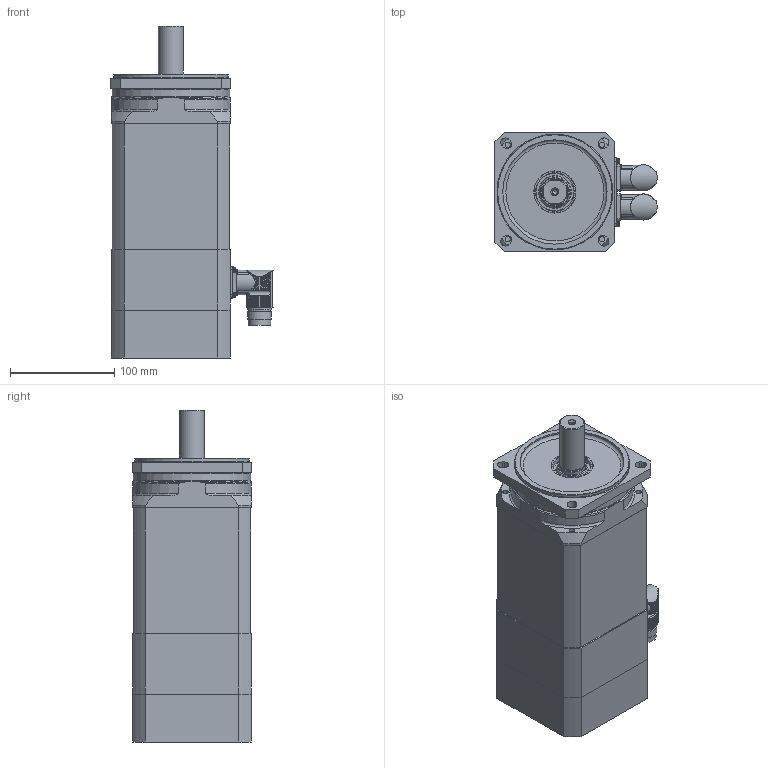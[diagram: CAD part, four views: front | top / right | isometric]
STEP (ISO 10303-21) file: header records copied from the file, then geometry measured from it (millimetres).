
FILE_DESCRIPTION(/* description */ (''),/* implementation_level */ '2;1');
FILE_NAME(/* name */ 'KSY 4612 D-Rx',/* time_stamp */ '2007-01-03T13:14:35+01:00',/* author */ (''),/* organization */ (''),/* preprocessor_version */ 'ST-DEVELOPER v8',/* originating_system */ 'UNIGRAPHICS SOLUTIONS - UNIGRAPHICS 18.0',/* authorisation */ '');
FILE_SCHEMA (('AUTOMOTIVE_DESIGN { 1 2 10303 214 0 1 1 1 }'));
Length unit declared in the file: millimetre
Products named in the file (14): Gehaeuse_SY4_120_0; iso1580-m4x20_A; 063299_0; 114104_0; Rotor_SY4_0; 114098_0; DIN3760_org_A25x40x7_0; iso1580-m2.5x6_A; iso1580-m3x10_A; din128-3_A; 014250_0; 014257_0; 064205Z_0; KSY464D-RD_0
Assembly tree (26 placements, depth 2):
  KSY464D-RD_0
    064205Z_0
    014257_0
    014250_0
    din128-3_A
    iso1580-m3x10_A  x4
    iso1580-m2.5x6_A  x8
    DIN3760_org_A25x40x7_0
    114098_0
    Rotor_SY4_0
    114104_0
    063299_0
    iso1580-m4x20_A  x4
    Gehaeuse_SY4_120_0
Bounding box: 155.49 x 115 x 318.5 mm (x, y, z)
Volume: 1312769.5 mm3; surface area: 367879.4 mm2
Topology: 26 solids, 26 shells, 904 faces, 2347 edges, 1541 vertices
Faces by surface type: cylinder 494, plane 274, cone 71, torus 45, sphere 20
Full cylindrical faces by diameter (mm): 1 x16, 1.948 x8, 2 x4, 2.135 x8, 2.387 x4, 2.459 x4, 2.5 x8, 2.7 x8, 3 x4, 3.141 x4, 3.432 x4, 3.5 x4, 4 x4, 4.351 x1, 4.5 x7, 5.188 x4, 5.5 x1, 6.5 x4, 8 x7, 14 x5, 18 x4, 20 x6, 20.5 x1, 21 x2, 21.5 x2, 23 x4, 23.52 x1, 24 x1, 25 x2, 25.3 x1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
Entity records: 23436 total; most frequent: CARTESIAN_POINT 5509, DIRECTION 3649, ORIENTED_EDGE 3362, EDGE_CURVE 1681, AXIS2_PLACEMENT_3D 1540, VERTEX_POINT 1220, EDGE_LOOP 1106, CIRCLE 761
